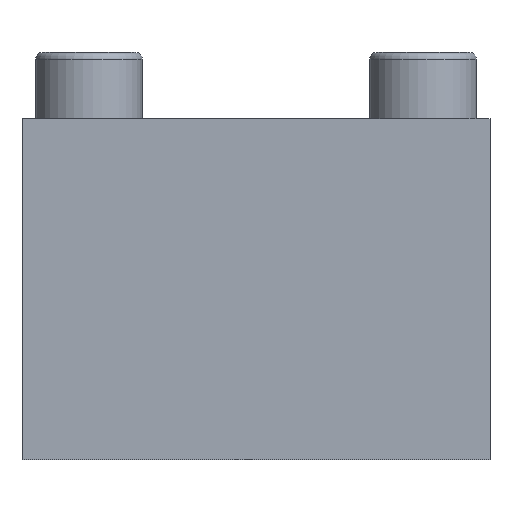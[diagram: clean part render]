
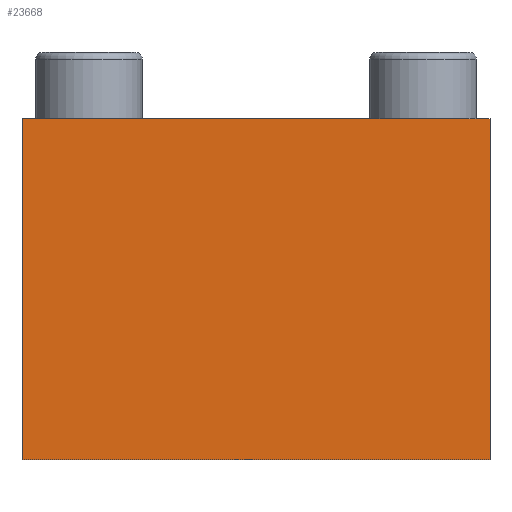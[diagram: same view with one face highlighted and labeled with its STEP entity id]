
A CAD part, front view. The second image highlights one B-rep face of the part: STEP entity #23668.
In plain terms, the highlighted planar face has unit normal (0, -1, 0).
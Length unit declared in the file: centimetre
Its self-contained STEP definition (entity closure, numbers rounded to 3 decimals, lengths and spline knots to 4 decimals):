
#1327=FACE_OUTER_BOUND('',#2706,.T.);
#2706=EDGE_LOOP('',(#15754,#15755,#15756,#15757));
#4002=LINE('',#30513,#6586);
#4670=LINE('',#33228,#7254);
#4673=LINE('',#33234,#7257);
#4674=LINE('',#33235,#7258);
#6586=VECTOR('',#25925,7.);
#7254=VECTOR('',#26689,5.1);
#7257=VECTOR('',#26694,5.1);
#7258=VECTOR('',#26695,7.);
#9170=VERTEX_POINT('',#30510);
#9171=VERTEX_POINT('',#30512);
#10130=VERTEX_POINT('',#33227);
#10132=VERTEX_POINT('',#33233);
#11420=EDGE_CURVE('',#9170,#9171,#4002,.T.);
#12380=EDGE_CURVE('',#9170,#10130,#4670,.T.);
#12383=EDGE_CURVE('',#9171,#10132,#4673,.T.);
#12384=EDGE_CURVE('',#10132,#10130,#4674,.T.);
#15754=ORIENTED_EDGE('',*,*,#12383,.F.);
#15755=ORIENTED_EDGE('',*,*,#11420,.F.);
#15756=ORIENTED_EDGE('',*,*,#12380,.T.);
#15757=ORIENTED_EDGE('',*,*,#12384,.F.);
#21489=PLANE('',#24968);
#23668=ADVANCED_FACE('',(#1327),#21489,.T.);
#24968=AXIS2_PLACEMENT_3D('',#33232,#26692,#26693);
#25925=DIRECTION('',(1.,0.,0.));
#26689=DIRECTION('',(0.,0.,-1.));
#26692=DIRECTION('center_axis',(0.,-1.,0.));
#26693=DIRECTION('ref_axis',(-1.,0.,0.));
#26694=DIRECTION('',(0.,0.,-1.));
#26695=DIRECTION('',(-1.,0.,0.));
#30510=CARTESIAN_POINT('',(-3.5,-15.,4.1));
#30512=CARTESIAN_POINT('',(3.5,-15.,4.1));
#30513=CARTESIAN_POINT('',(3.5,-15.,4.1));
#33227=CARTESIAN_POINT('',(-3.5,-15.,-1.));
#33228=CARTESIAN_POINT('',(-3.5,-15.,0.));
#33232=CARTESIAN_POINT('Origin',(3.5,-15.,3.1));
#33233=CARTESIAN_POINT('',(3.5,-15.,-1.));
#33234=CARTESIAN_POINT('',(3.5,-15.,0.));
#33235=CARTESIAN_POINT('',(3.5,-15.,-1.));
